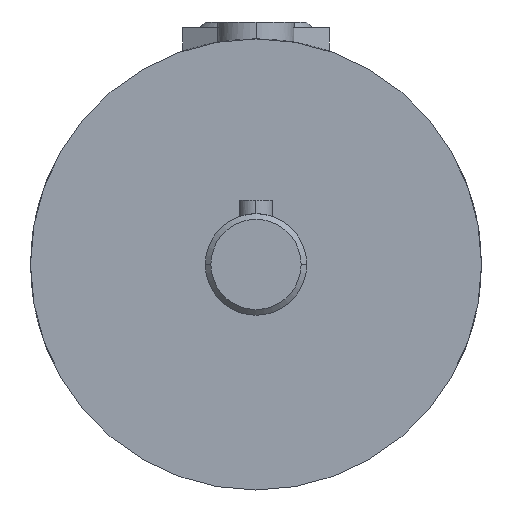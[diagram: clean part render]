
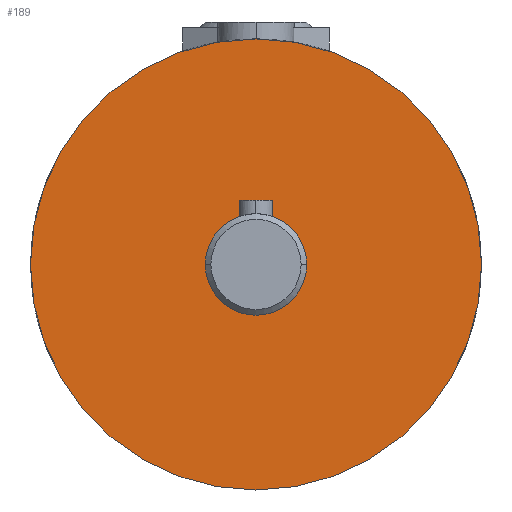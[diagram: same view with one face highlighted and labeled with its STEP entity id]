
A CAD part, left-side view. The second image highlights one B-rep face of the part: STEP entity #189.
In plain terms, the highlighted planar face has unit normal (-1, 0, 0).
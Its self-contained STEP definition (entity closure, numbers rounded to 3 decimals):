
#189=ADVANCED_FACE('',(#434,#435),#436,.F.);
#434=FACE_BOUND('',#681,.T.);
#435=FACE_OUTER_BOUND('',#682,.T.);
#436=PLANE('',#683);
#681=EDGE_LOOP('',(#1558,#1559));
#682=EDGE_LOOP('',(#1560,#1561));
#683=AXIS2_PLACEMENT_3D('',#1562,#1563,#1564);
#1558=ORIENTED_EDGE('',*,*,#1826,.F.);
#1559=ORIENTED_EDGE('',*,*,#1649,.F.);
#1560=ORIENTED_EDGE('',*,*,#1864,.F.);
#1561=ORIENTED_EDGE('',*,*,#1635,.F.);
#1562=CARTESIAN_POINT('',(27.5,0.,0.));
#1563=DIRECTION('',(1.0,0.,0.));
#1564=DIRECTION('',(0.,1.0,0.0));
#1635=EDGE_CURVE('',#1953,#1955,#1956,.T.);
#1649=EDGE_CURVE('',#1979,#1981,#1982,.T.);
#1826=EDGE_CURVE('',#1981,#1979,#2267,.T.);
#1864=EDGE_CURVE('',#1955,#1953,#2319,.T.);
#1953=VERTEX_POINT('',#2583);
#1955=VERTEX_POINT('',#2586);
#1956=CIRCLE('',#2587,20.0);
#1979=VERTEX_POINT('',#2617);
#1981=VERTEX_POINT('',#2620);
#1982=CIRCLE('',#2621,4.5);
#2267=CIRCLE('',#3086,4.5);
#2319=CIRCLE('',#3164,20.0);
#2583=CARTESIAN_POINT('',(27.5,20.0,0.));
#2586=CARTESIAN_POINT('',(27.5,-20.0,0.));
#2587=AXIS2_PLACEMENT_3D('',#3253,#3254,#3255);
#2617=CARTESIAN_POINT('',(27.5,-4.5,0.));
#2620=CARTESIAN_POINT('',(27.5,4.5,0.));
#2621=AXIS2_PLACEMENT_3D('',#3279,#3280,#3281);
#3086=AXIS2_PLACEMENT_3D('',#3604,#3605,#3606);
#3164=AXIS2_PLACEMENT_3D('',#3666,#3667,#3668);
#3253=CARTESIAN_POINT('',(27.5,0.,0.));
#3254=DIRECTION('',(1.0,0.,0.));
#3255=DIRECTION('',(0.,-1.0,0.0));
#3279=CARTESIAN_POINT('',(27.5,0.,0.));
#3280=DIRECTION('',(-1.0,0.,0.));
#3281=DIRECTION('',(0.,1.0,0.0));
#3604=CARTESIAN_POINT('',(27.5,0.,0.));
#3605=DIRECTION('',(-1.0,0.,0.));
#3606=DIRECTION('',(0.,1.0,0.0));
#3666=CARTESIAN_POINT('',(27.5,0.,0.));
#3667=DIRECTION('',(1.0,0.,0.));
#3668=DIRECTION('',(0.,-1.0,0.0));
